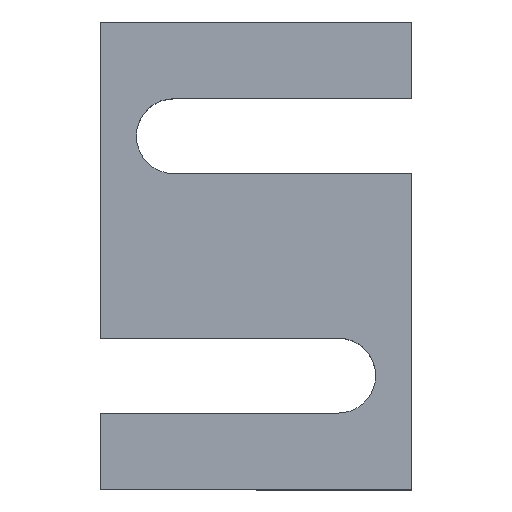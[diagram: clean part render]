
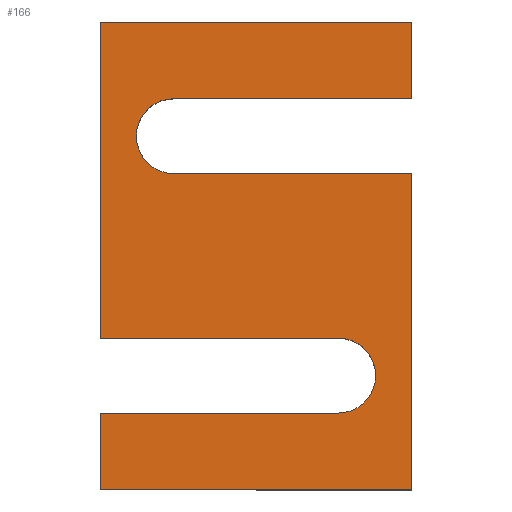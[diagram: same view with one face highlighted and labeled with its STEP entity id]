
A CAD part, top view. The second image highlights one B-rep face of the part: STEP entity #166.
In plain terms, the highlighted planar face has unit normal (0, 0, 1).
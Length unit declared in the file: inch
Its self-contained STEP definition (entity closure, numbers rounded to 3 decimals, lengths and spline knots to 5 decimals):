
#9 = LINE ( 'NONE', #310, #32 ) ;
#11 = CIRCLE ( 'NONE', #667, 0.24016 ) ;
#18 = LINE ( 'NONE', #271, #285 ) ;
#31 = CARTESIAN_POINT ( 'NONE',  ( -1., 1.5, 0.5 ) ) ;
#32 = VECTOR ( 'NONE', #375, 39.37008 ) ;
#44 = EDGE_LOOP ( 'NONE', ( #458, #339, #558, #424, #100, #350, #674, #85, #585, #181, #646, #390, #680 ) ) ;
#55 = DIRECTION ( 'NONE',  ( 1., 0., 0. ) ) ;
#77 = CARTESIAN_POINT ( 'NONE',  ( -1., -0.52756, 0.5 ) ) ;
#83 = VECTOR ( 'NONE', #309, 39.37008 ) ;
#84 = CARTESIAN_POINT ( 'NONE',  ( 1., 1.00787, 0.5 ) ) ;
#85 = ORIENTED_EDGE ( 'NONE', *, *, #470, .T. ) ;
#96 = CARTESIAN_POINT ( 'NONE',  ( 0.52756, -0.76772, 0.5 ) ) ;
#97 = LINE ( 'NONE', #471, #83 ) ;
#99 = DIRECTION ( 'NONE',  ( 0., -1., 0. ) ) ;
#100 = ORIENTED_EDGE ( 'NONE', *, *, #397, .T. ) ;
#102 = CARTESIAN_POINT ( 'NONE',  ( -0.52756, 0.52756, 0.5 ) ) ;
#107 = EDGE_CURVE ( 'NONE', #617, #238, #388, .T. ) ;
#126 = LINE ( 'NONE', #478, #438 ) ;
#135 = VERTEX_POINT ( 'NONE', #448 ) ;
#144 = VERTEX_POINT ( 'NONE', #621 ) ;
#166 = ADVANCED_FACE ( 'NONE', ( #379 ), #287, .T. ) ;
#178 = DIRECTION ( 'NONE',  ( 1., 0., 0. ) ) ;
#181 = ORIENTED_EDGE ( 'NONE', *, *, #322, .T. ) ;
#184 = DIRECTION ( 'NONE',  ( 1., 0., 0. ) ) ;
#196 = VERTEX_POINT ( 'NONE', #77 ) ;
#200 = CARTESIAN_POINT ( 'NONE',  ( 0.52756, -1.00787, 0.5 ) ) ;
#207 = DIRECTION ( 'NONE',  ( 1., 0., 0. ) ) ;
#210 = VECTOR ( 'NONE', #184, 39.37008 ) ;
#213 = CARTESIAN_POINT ( 'NONE',  ( 1., 0.52756, 0.5 ) ) ;
#216 = CARTESIAN_POINT ( 'NONE',  ( 1., 1.5, 0.5 ) ) ;
#223 = DIRECTION ( 'NONE',  ( 0., 1., 0. ) ) ;
#238 = VERTEX_POINT ( 'NONE', #570 ) ;
#239 = CARTESIAN_POINT ( 'NONE',  ( -1., -1.00787, 0.5 ) ) ;
#247 = CARTESIAN_POINT ( 'NONE',  ( -1., -0.52756, 0.5 ) ) ;
#251 = CIRCLE ( 'NONE', #277, 0.24016 ) ;
#254 = VERTEX_POINT ( 'NONE', #31 ) ;
#258 = VECTOR ( 'NONE', #259, 39.37008 ) ;
#259 = DIRECTION ( 'NONE',  ( 0., 1., 0. ) ) ;
#271 = CARTESIAN_POINT ( 'NONE',  ( 1., 1.5, 0.5 ) ) ;
#277 = AXIS2_PLACEMENT_3D ( 'NONE', #422, #362, #207 ) ;
#279 = VERTEX_POINT ( 'NONE', #351 ) ;
#282 = EDGE_CURVE ( 'NONE', #279, #418, #624, .T. ) ;
#285 = VECTOR ( 'NONE', #223, 39.37008 ) ;
#287 = PLANE ( 'NONE',  #522 ) ;
#290 = LINE ( 'NONE', #213, #258 ) ;
#296 = VERTEX_POINT ( 'NONE', #84 ) ;
#306 = LINE ( 'NONE', #326, #346 ) ;
#309 = DIRECTION ( 'NONE',  ( 1., 0., 0. ) ) ;
#310 = CARTESIAN_POINT ( 'NONE',  ( -1., -1.00787, 0.5 ) ) ;
#317 = VERTEX_POINT ( 'NONE', #239 ) ;
#322 = EDGE_CURVE ( 'NONE', #144, #645, #11, .T. ) ;
#326 = CARTESIAN_POINT ( 'NONE',  ( -1., 1.5, 0.5 ) ) ;
#333 = CARTESIAN_POINT ( 'NONE',  ( -1., -1.5, 0.5 ) ) ;
#339 = ORIENTED_EDGE ( 'NONE', *, *, #282, .T. ) ;
#340 = CARTESIAN_POINT ( 'NONE',  ( 0.52756, -0.76772, 0.5 ) ) ;
#346 = VECTOR ( 'NONE', #384, 39.37008 ) ;
#350 = ORIENTED_EDGE ( 'NONE', *, *, #620, .T. ) ;
#351 = CARTESIAN_POINT ( 'NONE',  ( 1., 0.52756, 0.5 ) ) ;
#355 = LINE ( 'NONE', #200, #659 ) ;
#357 = EDGE_CURVE ( 'NONE', #645, #317, #355, .T. ) ;
#362 = DIRECTION ( 'NONE',  ( 0., 0., -1. ) ) ;
#364 = EDGE_CURVE ( 'NONE', #418, #605, #251, .T. ) ;
#375 = DIRECTION ( 'NONE',  ( 0., -1., 0. ) ) ;
#376 = DIRECTION ( 'NONE',  ( 0., 0., -1. ) ) ;
#379 = FACE_OUTER_BOUND ( 'NONE', #44, .T. ) ;
#384 = DIRECTION ( 'NONE',  ( -1., 0., 0. ) ) ;
#388 = LINE ( 'NONE', #391, #210 ) ;
#390 = ORIENTED_EDGE ( 'NONE', *, *, #499, .T. ) ;
#391 = CARTESIAN_POINT ( 'NONE',  ( -1., -1.5, 0.5 ) ) ;
#397 = EDGE_CURVE ( 'NONE', #135, #296, #97, .T. ) ;
#406 = EDGE_CURVE ( 'NONE', #196, #144, #487, .T. ) ;
#412 = CARTESIAN_POINT ( 'NONE',  ( 1., 0.52756, 0.5 ) ) ;
#413 = DIRECTION ( 'NONE',  ( 0., 0., -1. ) ) ;
#418 = VERTEX_POINT ( 'NONE', #102 ) ;
#421 = DIRECTION ( 'NONE',  ( 1., 0., 0. ) ) ;
#422 = CARTESIAN_POINT ( 'NONE',  ( -0.52756, 0.76772, 0.5 ) ) ;
#424 = ORIENTED_EDGE ( 'NONE', *, *, #489, .T. ) ;
#428 = CARTESIAN_POINT ( 'NONE',  ( -0.76772, 0.76772, 0.5 ) ) ;
#438 = VECTOR ( 'NONE', #99, 39.37008 ) ;
#448 = CARTESIAN_POINT ( 'NONE',  ( -0.52756, 1.00787, 0.5 ) ) ;
#458 = ORIENTED_EDGE ( 'NONE', *, *, #500, .T. ) ;
#470 = EDGE_CURVE ( 'NONE', #254, #196, #126, .T. ) ;
#471 = CARTESIAN_POINT ( 'NONE',  ( 1., 1.00787, 0.5 ) ) ;
#474 = VECTOR ( 'NONE', #421, 39.37008 ) ;
#478 = CARTESIAN_POINT ( 'NONE',  ( -1., 1.5, 0.5 ) ) ;
#487 = LINE ( 'NONE', #247, #474 ) ;
#489 = EDGE_CURVE ( 'NONE', #605, #135, #563, .T. ) ;
#498 = DIRECTION ( 'NONE',  ( 0., 0., 1. ) ) ;
#499 = EDGE_CURVE ( 'NONE', #317, #617, #9, .T. ) ;
#500 = EDGE_CURVE ( 'NONE', #238, #279, #290, .T. ) ;
#522 = AXIS2_PLACEMENT_3D ( 'NONE', #340, #498, #178 ) ;
#523 = DIRECTION ( 'NONE',  ( 1., 0., 0. ) ) ;
#531 = CARTESIAN_POINT ( 'NONE',  ( -0.52756, 0.76772, 0.5 ) ) ;
#558 = ORIENTED_EDGE ( 'NONE', *, *, #364, .T. ) ;
#563 = CIRCLE ( 'NONE', #610, 0.24016 ) ;
#567 = VERTEX_POINT ( 'NONE', #216 ) ;
#570 = CARTESIAN_POINT ( 'NONE',  ( 1., -1.5, 0.5 ) ) ;
#583 = VECTOR ( 'NONE', #670, 39.37008 ) ;
#585 = ORIENTED_EDGE ( 'NONE', *, *, #406, .T. ) ;
#605 = VERTEX_POINT ( 'NONE', #428 ) ;
#610 = AXIS2_PLACEMENT_3D ( 'NONE', #531, #376, #55 ) ;
#617 = VERTEX_POINT ( 'NONE', #333 ) ;
#620 = EDGE_CURVE ( 'NONE', #296, #567, #18, .T. ) ;
#621 = CARTESIAN_POINT ( 'NONE',  ( 0.52756, -0.52756, 0.5 ) ) ;
#624 = LINE ( 'NONE', #412, #583 ) ;
#637 = DIRECTION ( 'NONE',  ( -1., 0., 0. ) ) ;
#645 = VERTEX_POINT ( 'NONE', #653 ) ;
#646 = ORIENTED_EDGE ( 'NONE', *, *, #357, .T. ) ;
#653 = CARTESIAN_POINT ( 'NONE',  ( 0.52756, -1.00787, 0.5 ) ) ;
#659 = VECTOR ( 'NONE', #637, 39.37008 ) ;
#660 = EDGE_CURVE ( 'NONE', #567, #254, #306, .T. ) ;
#667 = AXIS2_PLACEMENT_3D ( 'NONE', #96, #413, #523 ) ;
#670 = DIRECTION ( 'NONE',  ( -1., 0., 0. ) ) ;
#674 = ORIENTED_EDGE ( 'NONE', *, *, #660, .T. ) ;
#680 = ORIENTED_EDGE ( 'NONE', *, *, #107, .T. ) ;
